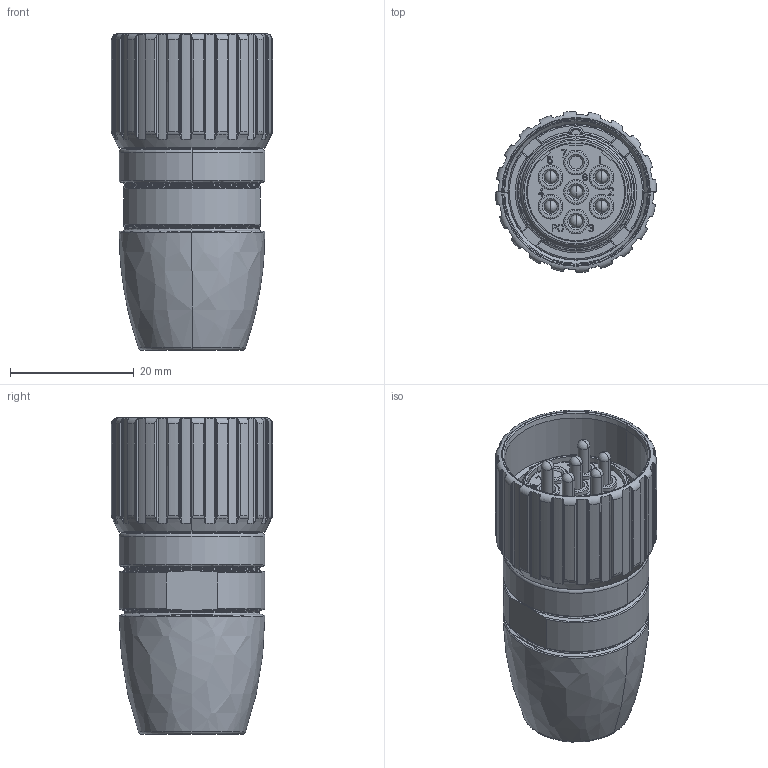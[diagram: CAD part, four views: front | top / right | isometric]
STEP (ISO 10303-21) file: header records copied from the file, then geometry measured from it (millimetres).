
FILE_DESCRIPTION((''),'2;1');
FILE_NAME('RC-06P1N1280G0','2011-04-27T',('jscheremet'),(''),'PRO/ENGINEER BY PARAMETRIC TECHNOLOGY CORPORATION, 2008490','PRO/ENGINEER BY PARAMETRIC TECHNOLOGY CORPORATION, 2008490','');
FILE_SCHEMA(('AUTOMOTIVE_DESIGN { 1 0 10303 214 1 1 1 1 }'));
Length unit declared in the file: millimetre
Products named in the file (1): RC-06P1N1280G0
Bounding box: 26 x 26 x 51.1 mm (x, y, z)
Volume: 18186.6 mm3; surface area: 7051.4 mm2
Topology: 1 solids, 1 shells, 738 faces, 1982 edges, 1274 vertices
Faces by surface type: plane 390, cylinder 206, torus 80, cone 32, sphere 20, bspline 10
Entity records: 24534 total; most frequent: CARTESIAN_POINT 6412, ORIENTED_EDGE 3940, DIRECTION 3535, EDGE_CURVE 1970, VERTEX_POINT 1274, AXIS2_PLACEMENT_3D 1179, VECTOR 1177, LINE 1177
